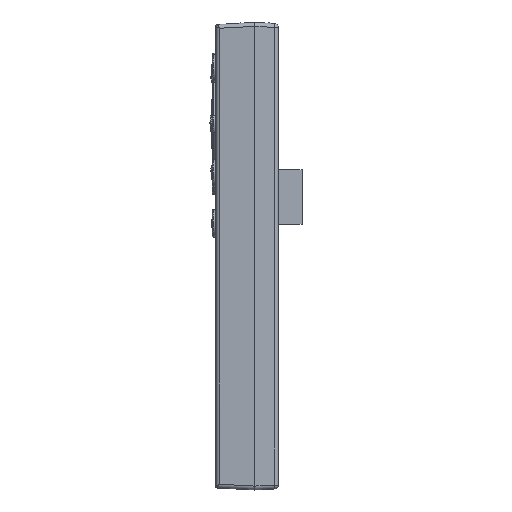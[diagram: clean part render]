
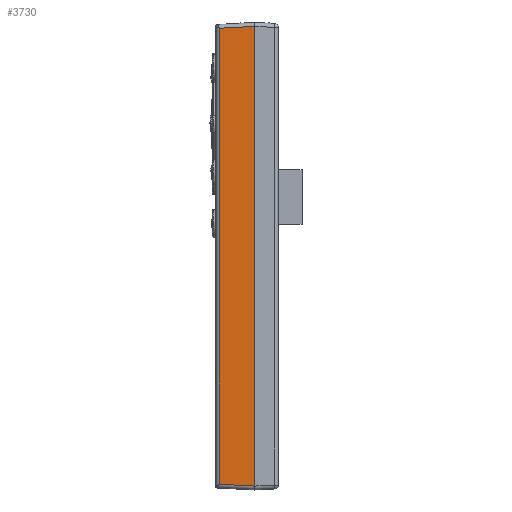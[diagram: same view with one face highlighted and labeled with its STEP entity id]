
A CAD part, left-side view. The second image highlights one B-rep face of the part: STEP entity #3730.
In plain terms, the highlighted planar face has unit normal (-0.999, 0.052, 0).
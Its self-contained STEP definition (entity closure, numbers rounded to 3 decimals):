
#3730=ADVANCED_FACE('',(#19334),#19336,.T.);
#19334=FACE_BOUND('',#19335,.T.);
#19335=EDGE_LOOP('',(#35416,#35417,#35418,#35419));
#19336=PLANE('',#19337);
#19337=AXIS2_PLACEMENT_3D('',#19338,#19339,#19340);
#19338=CARTESIAN_POINT('',(-34.998,83.7,-107.507));
#19339=DIRECTION('',(-0.999,0.052,0.));
#19340=DIRECTION('',(0.052,0.999,0.));
#35416=ORIENTED_EDGE('',*,*,#43774,.T.);
#35417=ORIENTED_EDGE('',*,*,#43775,.T.);
#35418=ORIENTED_EDGE('',*,*,#43562,.T.);
#35419=ORIENTED_EDGE('',*,*,#43776,.T.);
#43562=EDGE_CURVE('',#48933,#48931,#48934,.T.);
#43774=EDGE_CURVE('',#49298,#49299,#49300,.T.);
#43775=EDGE_CURVE('',#49299,#48933,#49301,.T.);
#43776=EDGE_CURVE('',#48931,#49298,#49302,.T.);
#48931=VERTEX_POINT('',#60876);
#48933=VERTEX_POINT('',#60881);
#48934=LINE('',#60882,#60883);
#49298=VERTEX_POINT('',#61691);
#49299=VERTEX_POINT('',#61692);
#49300=LINE('',#61693,#61694);
#49301=LINE('',#61696,#61697);
#49302=LINE('',#61699,#61700);
#60876=CARTESIAN_POINT('',(-34.998,83.7,-22.208));
#60881=CARTESIAN_POINT('',(-34.998,83.7,-140.006));
#60882=CARTESIAN_POINT('',(-34.998,83.7,-140.006));
#60883=VECTOR('',#60884,1.);
#60884=DIRECTION('',(0.,0.,1.));
#61691=CARTESIAN_POINT('',(-34.524,92.752,-22.683));
#61692=CARTESIAN_POINT('',(-34.524,92.752,-139.532));
#61693=CARTESIAN_POINT('',(-34.524,92.752,-22.683));
#61694=VECTOR('',#61695,1.);
#61695=DIRECTION('',(0.,0.,-1.));
#61696=CARTESIAN_POINT('',(-34.524,92.752,-139.532));
#61697=VECTOR('',#61698,1.);
#61698=DIRECTION('',(-0.052,-0.997,-0.052));
#61699=CARTESIAN_POINT('',(-34.998,83.7,-22.208));
#61700=VECTOR('',#61701,1.);
#61701=DIRECTION('',(0.052,0.997,-0.052));
